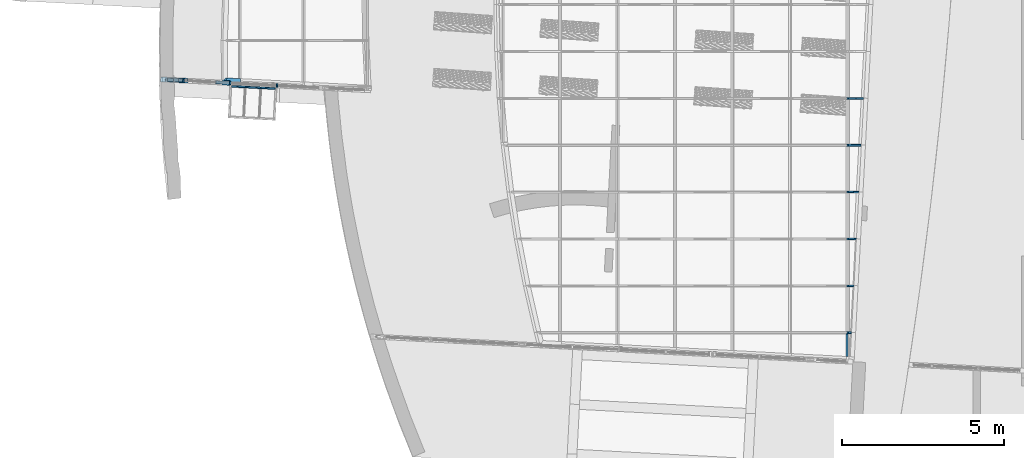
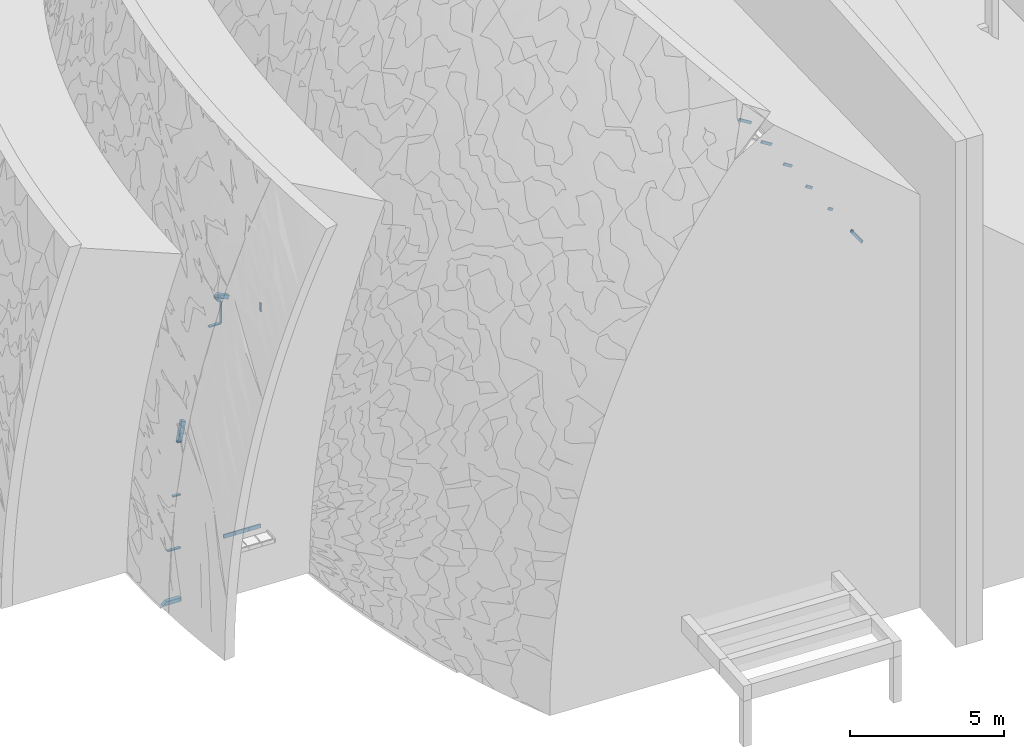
# One storey, part 25 of 82: 21 members, 3 elements without a shape of their own.
"""IFC2X3 building model written with IfcOpenShell, lengths in millimetres."""

from ifc_helpers import new_model, entity, si_unit, converted_unit, derived_unit, direction, frame, frame_2d, origin, origin_2d_with_axis, place, context, subcontext, project, spatial, polyline, rectangle, extrude, clip, halfspace, bounded_halfspace, source, transform, mapped, material, type_object, type_shapes, element, aggregate, save


model = new_model("IFC2X3")

# Units and contexts
model_context = context("Model", 3, precision=0.01, world=origin(), true_north=direction((6.12303176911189e-17, 1.0)))
body_context = subcontext(model_context, "Body", "Model", "MODEL_VIEW")
ifc_project = project(units=[si_unit("LENGTHUNIT", "METRE", prefix="MILLI"), si_unit("AREAUNIT", "SQUARE_METRE"), si_unit("VOLUMEUNIT", "CUBIC_METRE"), converted_unit("PLANEANGLEUNIT", "DEGREE", entity("IfcRatioMeasure", 0.0174532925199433), si_unit("PLANEANGLEUNIT", "RADIAN"), dimensions=[0, 0, 0, 0, 0, 0, 0]), si_unit("MASSUNIT", "GRAM", prefix="KILO"), derived_unit("MASSDENSITYUNIT", [(si_unit("MASSUNIT", "GRAM", prefix="KILO"), 1), (si_unit("LENGTHUNIT", "METRE"), -3)]), si_unit("TIMEUNIT", "SECOND"), si_unit("FREQUENCYUNIT", "HERTZ"), si_unit("THERMODYNAMICTEMPERATUREUNIT", "DEGREE_CELSIUS"), derived_unit("THERMALTRANSMITTANCEUNIT", [(si_unit("MASSUNIT", "GRAM", prefix="KILO"), 1), (si_unit("THERMODYNAMICTEMPERATUREUNIT", "KELVIN"), -1), (si_unit("TIMEUNIT", "SECOND"), -3)]), derived_unit("VOLUMETRICFLOWRATEUNIT", [(si_unit("LENGTHUNIT", "METRE"), 3), (si_unit("TIMEUNIT", "SECOND"), -1)]), si_unit("ELECTRICCURRENTUNIT", "AMPERE"), si_unit("ELECTRICVOLTAGEUNIT", "VOLT"), si_unit("POWERUNIT", "WATT"), si_unit("FORCEUNIT", "NEWTON", prefix="KILO"), si_unit("ILLUMINANCEUNIT", "LUX"), si_unit("LUMINOUSFLUXUNIT", "LUMEN"), si_unit("LUMINOUSINTENSITYUNIT", "CANDELA"), derived_unit("USERDEFINED", [(si_unit("MASSUNIT", "GRAM", prefix="KILO"), -1), (si_unit("LENGTHUNIT", "METRE"), -2), (si_unit("TIMEUNIT", "SECOND"), 3), (si_unit("LUMINOUSFLUXUNIT", "LUMEN"), 1)]), derived_unit("LINEARVELOCITYUNIT", [(si_unit("LENGTHUNIT", "METRE"), 1), (si_unit("TIMEUNIT", "SECOND"), -1)]), si_unit("PRESSUREUNIT", "PASCAL"), derived_unit("USERDEFINED", [(si_unit("LENGTHUNIT", "METRE"), -2), (si_unit("MASSUNIT", "GRAM", prefix="KILO"), 1), (si_unit("TIMEUNIT", "SECOND"), -2)])], contexts=[model_context])

# Site, building, storey
site_placement = place(None, origin())
site = spatial("IfcSite", under=ifc_project, at=site_placement, Name="表面", CompositionType="ELEMENT")
building_placement = place(site_placement, origin())
building = spatial("IfcBuilding", under=site, at=building_placement, CompositionType="ELEMENT")
storey_placement = place(building_placement, origin())
storey = spatial("IfcBuildingStorey", under=building, at=storey_placement, Name="1F", CompositionType="ELEMENT", Elevation=0.0)

# Curtain wall, members
curtain_wall_type_1 = type_object("IfcCurtainWallType", Name="幕墙系统:1450 x 2100mm", PredefinedType="NOTDEFINED")
curtain_wall_1_placement = place(storey_placement, origin())
curtain_wall_1 = element("IfcCurtainWall", 1, at=curtain_wall_1_placement, inside=storey, type_object=curtain_wall_type_1, Name="幕墙系统:1450 x 2100mm", ObjectType="幕墙系统:1450 x 2100mm")
ifc_material_1 = material(Name="金属 - 铝")
member_type_1 = type_object("IfcMemberType", Name="50 x 100mm", PredefinedType="MEMBER")
shared_shape_1 = source(origin(), body_context, "Body", "Clipping", [
    clip(clip(extrude(rectangle(XDim=100.0, YDim=50.0, at=origin_2d_with_axis()), frame((0.0, 0.0, -716.269883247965), z_axis=(0.0, 0.0, 1.0), x_axis=(0.0, -1.0, 0.0)), (0.0, 0.0, 1.0), 716.269883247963), bounded_halfspace(frame((-6.66007304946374, 75.0, -715.454777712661), z_axis=(0.0444004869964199, 0.0, -0.999013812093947), x_axis=(-0.999013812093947, 0.0, -0.0444004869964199)), False, frame((0.0, 0.0, -716.269883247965), z_axis=(0.0, 0.0, 1.0), x_axis=(0.0, -1.0, 0.0)), polyline([(50.0, -6.66007304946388), (50.0, -25.0), (-50.0, -25.0), (-50.0, -6.6600730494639), (50.0, -6.66007304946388)]))), bounded_halfspace(frame((2093.33992695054, 75.0, -622.121711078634), z_axis=(0.0444004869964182, 0.0, -0.999013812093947), x_axis=(-0.999013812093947, 0.0, -0.0444004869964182)), False, frame((0.0, 0.0, -716.269883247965), z_axis=(0.0, 0.0, 1.0), x_axis=(0.0, -1.0, 0.0)), polyline([(-50.0, 25.0), (50.0, 25.0), (50.0, -6.6600730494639), (-50.0, -6.66007304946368), (-50.0, 25.0)]))),
])
type_shapes(member_type_1, [shared_shape_1])
placement_1 = place(building_placement, frame((0.0, 0.0, 9000.0)))
member_1_placement = place(placement_1, frame((-19919.0996129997, -27913.9031535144, 3143.03179701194), z_axis=(0.0, 1.0, 0.0), x_axis=(-0.848048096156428, 0.0, 0.529919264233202)))
member_1 = element("IfcMember", 2, at=member_1_placement, type_object=member_type_1, material=ifc_material_1, Name="矩形竖梃:50 x 100mm", ObjectType="50 x 100mm", context=body_context, shape_type="MappedRepresentation", body=[
    mapped(shared_shape_1, transform((0.0, 0.0, 0.0), scale=1.0)),
])
member_type_2 = type_object("IfcMemberType", Name="50 x 100mm", PredefinedType="MEMBER")
shared_shape_2 = source(origin(), body_context, "Body", "Clipping", [
    clip(clip(extrude(rectangle(XDim=100.0, YDim=50.0, at=origin_2d_with_axis()), frame((0.0, 0.0, -541.711453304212), z_axis=(0.0, 0.0, 1.0), x_axis=(0.0, -1.0, 0.0)), (0.0, 0.0, 1.0), 541.711453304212), bounded_halfspace(frame((-9.25206819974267, 75.0, -540.738260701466), z_axis=(0.0616804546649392, 0.0, -0.998095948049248), x_axis=(-0.998095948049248, 0.0, -0.0616804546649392)), False, frame((0.0, 0.0, -541.711453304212), z_axis=(0.0, 0.0, 1.0), x_axis=(0.0, -1.0, 0.0)), polyline([(50.0, -9.25206819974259), (50.0, -25.0), (-50.0, -25.0), (-50.0, -9.25206819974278), (50.0, -9.25206819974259)]))), bounded_halfspace(frame((1440.74793180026, 75.0, -451.130984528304), z_axis=(0.0616804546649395, 0.0, -0.998095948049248), x_axis=(-0.998095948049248, 0.0, -0.0616804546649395)), False, frame((0.0, 0.0, -541.711453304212), z_axis=(0.0, 0.0, 1.0), x_axis=(0.0, -1.0, 0.0)), polyline([(-50.0, 25.0), (50.0, 25.0), (50.0, -9.25206819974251), (-50.0, -9.25206819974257), (-50.0, 25.0)]))),
])
type_shapes(member_type_2, [shared_shape_2])
member_2_placement = place(placement_1, frame((-19919.0996129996, -20638.9031535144, 3143.03179701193), z_axis=(-0.848048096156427, 0.0, 0.529919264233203), x_axis=(0.0, -1.0, 0.0)))
member_2 = element("IfcMember", 3, at=member_2_placement, type_object=member_type_2, material=ifc_material_1, Name="矩形竖梃:50 x 100mm", ObjectType="50 x 100mm", context=body_context, shape_type="MappedRepresentation", body=[
    mapped(shared_shape_2, transform((0.0, 0.0, 0.0), scale=1.0)),
])
member_type_3 = type_object("IfcMemberType", Name="50 x 100mm", PredefinedType="MEMBER")
shared_shape_3 = source(origin(), body_context, "Body", "Clipping", [
    clip(clip(extrude(rectangle(XDim=100.0, YDim=50.0, at=origin_2d_with_axis()), frame((0.0, 0.0, -452.104177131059), z_axis=(0.0, 0.0, 1.0), x_axis=(0.0, -1.0, 0.0)), (0.0, 0.0, 1.0), 452.104177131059), bounded_halfspace(frame((-9.25206819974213, 75.0, -451.130984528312), z_axis=(0.0616804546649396, 0.0, -0.998095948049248), x_axis=(-0.998095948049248, 0.0, -0.0616804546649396)), False, frame((0.0, 0.0, -452.104177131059), z_axis=(0.0, 0.0, 1.0), x_axis=(0.0, -1.0, 0.0)), polyline([(50.0, -9.25206819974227), (50.0, -25.0), (-50.0, -25.0), (-50.0, -9.25206819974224), (50.0, -9.25206819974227)]))), bounded_halfspace(frame((1440.74793180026, 75.0, -361.523708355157), z_axis=(0.0616804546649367, 0.0, -0.998095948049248), x_axis=(-0.998095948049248, 0.0, -0.0616804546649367)), False, frame((0.0, 0.0, -452.104177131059), z_axis=(0.0, 0.0, 1.0), x_axis=(0.0, -1.0, 0.0)), polyline([(-50.0, 25.0), (50.0, 25.0), (50.0, -9.25206819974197), (-50.0, -9.25206819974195), (-50.0, 25.0)]))),
])
type_shapes(member_type_3, [shared_shape_3])
member_3_placement = place(placement_1, frame((-19919.0996129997, -22088.9031535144, 3143.03179701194), z_axis=(-0.848048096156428, 0.0, 0.529919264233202), x_axis=(0.0, -1.0, 0.0)))
member_3 = element("IfcMember", 4, at=member_3_placement, type_object=member_type_3, material=ifc_material_1, Name="矩形竖梃:50 x 100mm", ObjectType="50 x 100mm", context=body_context, shape_type="MappedRepresentation", body=[
    mapped(shared_shape_3, transform((0.0, 0.0, 0.0), scale=1.0)),
])
member_type_4 = type_object("IfcMemberType", Name="50 x 100mm", PredefinedType="MEMBER")
shared_shape_4 = source(origin(), body_context, "Body", "Clipping", [
    clip(clip(extrude(rectangle(XDim=100.0, YDim=50.0, at=frame_2d((-2.48689957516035e-14, 0.0), x_axis=(1.0, 0.0))), frame((0.0, 0.0, -362.496900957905), z_axis=(0.0, 0.0, 1.0), x_axis=(0.0, -1.0, 0.0)), (0.0, 0.0, 1.0), 362.496900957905), bounded_halfspace(frame((-9.25206819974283, 75.0, -361.523708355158), z_axis=(0.0616804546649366, 0.0, -0.998095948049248), x_axis=(-0.998095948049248, 0.0, -0.0616804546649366)), False, frame((0.0, 0.0, -362.496900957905), z_axis=(0.0, 0.0, 1.0), x_axis=(0.0, -1.0, 0.0)), polyline([(50.0, -9.25206819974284), (50.0, -25.0), (-50.0, -25.0), (-50.0, -9.25206819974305), (50.0, -9.25206819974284)]))), bounded_halfspace(frame((1440.74793180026, 75.0, -271.916432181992), z_axis=(0.0616804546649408, 0.0, -0.998095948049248), x_axis=(-0.998095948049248, 0.0, -0.0616804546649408)), False, frame((0.0, 0.0, -362.496900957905), z_axis=(0.0, 0.0, 1.0), x_axis=(0.0, -1.0, 0.0)), polyline([(-50.0, 25.0), (50.0, 25.0), (50.0, -9.25206819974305), (-50.0, -9.25206819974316), (-50.0, 25.0)]))),
])
type_shapes(member_type_4, [shared_shape_4])
member_4_placement = place(placement_1, frame((-19919.0996129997, -23538.9031535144, 3143.03179701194), z_axis=(-0.848048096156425, 0.0, 0.529919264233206), x_axis=(0.0, -1.0, 0.0)))
member_4 = element("IfcMember", 5, at=member_4_placement, type_object=member_type_4, material=ifc_material_1, Name="矩形竖梃:50 x 100mm", ObjectType="50 x 100mm", context=body_context, shape_type="MappedRepresentation", body=[
    mapped(shared_shape_4, transform((0.0, 0.0, 0.0), scale=1.0)),
])
member_type_5 = type_object("IfcMemberType", Name="50 x 100mm", PredefinedType="MEMBER")
shared_shape_5 = source(origin(), body_context, "Body", "Clipping", [
    clip(clip(extrude(rectangle(XDim=100.0, YDim=50.0, at=frame_2d((-2.48689957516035e-14, 0.0), x_axis=(1.0, 0.0))), frame((0.0, 0.0, -272.889624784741), z_axis=(0.0, 0.0, 1.0), x_axis=(0.0, -1.0, 0.0)), (0.0, 0.0, 1.0), 272.889624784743), bounded_halfspace(frame((-9.25206819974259, 75.0, -271.916432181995), z_axis=(0.0616804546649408, 0.0, -0.998095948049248), x_axis=(-0.998095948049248, 0.0, -0.0616804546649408)), False, frame((0.0, 0.0, -272.889624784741), z_axis=(0.0, 0.0, 1.0), x_axis=(0.0, -1.0, 0.0)), polyline([(50.0, -9.25206819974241), (50.0, -25.0), (-50.0, -25.0), (-50.0, -9.25206819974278), (50.0, -9.25206819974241)]))), bounded_halfspace(frame((1440.74793180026, 75.0, -182.309156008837), z_axis=(0.0616804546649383, 0.0, -0.998095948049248), x_axis=(-0.998095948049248, 0.0, -0.0616804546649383)), False, frame((0.0, 0.0, -272.889624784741), z_axis=(0.0, 0.0, 1.0), x_axis=(0.0, -1.0, 0.0)), polyline([(-50.0, 25.0), (50.0, 25.0), (50.0, -9.25206819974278), (-50.0, -9.25206819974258), (-50.0, 25.0)]))),
])
type_shapes(member_type_5, [shared_shape_5])
member_5_placement = place(placement_1, frame((-19919.0996129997, -24988.9031535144, 3143.03179701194), z_axis=(-0.848048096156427, 0.0, 0.529919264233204), x_axis=(0.0, -1.0, 0.0)))
member_5 = element("IfcMember", 6, at=member_5_placement, type_object=member_type_5, material=ifc_material_1, Name="矩形竖梃:50 x 100mm", ObjectType="50 x 100mm", context=body_context, shape_type="MappedRepresentation", body=[
    mapped(shared_shape_5, transform((0.0, 0.0, 0.0), scale=1.0)),
])
member_type_6 = type_object("IfcMemberType", Name="50 x 100mm", PredefinedType="MEMBER")
shared_shape_6 = source(origin(), body_context, "Body", "Clipping", [
    clip(clip(extrude(rectangle(XDim=100.0, YDim=50.0, at=frame_2d((-1.4210854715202e-14, 0.0), x_axis=(1.0, 0.0))), frame((0.0, 0.0, -183.282348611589), z_axis=(0.0, 0.0, 1.0), x_axis=(0.0, -1.0, 0.0)), (0.0, 0.0, 1.0), 183.282348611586), bounded_halfspace(frame((-9.25206819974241, 75.0, -182.309156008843), z_axis=(0.0616804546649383, 0.0, -0.998095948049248), x_axis=(-0.998095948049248, 0.0, -0.0616804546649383)), False, frame((0.0, 0.0, -183.282348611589), z_axis=(0.0, 0.0, 1.0), x_axis=(0.0, -1.0, 0.0)), polyline([(50.0, -9.25206819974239), (50.0, -25.0), (-50.0, -25.0), (-50.0, -9.25206819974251), (50.0, -9.25206819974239)]))), bounded_halfspace(frame((1440.74793180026, 75.0, -92.7018798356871), z_axis=(0.0616804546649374, 0.0, -0.998095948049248), x_axis=(-0.998095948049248, 0.0, -0.0616804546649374)), False, frame((0.0, 0.0, -183.282348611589), z_axis=(0.0, 0.0, 1.0), x_axis=(0.0, -1.0, 0.0)), polyline([(-50.0, 25.0), (50.0, 25.0), (50.0, -9.25206819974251), (-50.0, -9.25206819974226), (-50.0, 25.0)]))),
])
type_shapes(member_type_6, [shared_shape_6])
member_6_placement = place(placement_1, frame((-19919.0996129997, -26438.9031535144, 3143.03179701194), z_axis=(-0.848048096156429, 0.0, 0.5299192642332), x_axis=(0.0, -1.0, 0.0)))
member_6 = element("IfcMember", 7, at=member_6_placement, type_object=member_type_6, material=ifc_material_1, Name="矩形竖梃:50 x 100mm", ObjectType="50 x 100mm", context=body_context, shape_type="MappedRepresentation", body=[
    mapped(shared_shape_6, transform((0.0, 0.0, 0.0), scale=1.0)),
])
member_type_7 = type_object("IfcMemberType", Name="50 x 100mm", PredefinedType="MEMBER")
shared_shape_7 = source(origin(), body_context, "Body", "Clipping", [
    clip(clip(extrude(rectangle(XDim=100.0, YDim=50.0, at=origin_2d_with_axis()), frame((0.0, 0.0, -93.675072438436), z_axis=(0.0, 0.0, 1.0), x_axis=(0.0, -1.0, 0.0)), (0.0, 0.0, 1.0), 93.675072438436), bounded_halfspace(frame((-9.25206819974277, 75.0, -92.7018798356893), z_axis=(0.0616804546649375, 0.0, -0.998095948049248), x_axis=(-0.998095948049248, 0.0, -0.0616804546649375)), False, frame((0.0, 0.0, -93.675072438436), z_axis=(0.0, 0.0, 1.0), x_axis=(0.0, -1.0, 0.0)), polyline([(50.0, -9.2520681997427), (50.0, -25.0), (-50.0, -25.0), (-50.0, -9.25206819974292), (50.0, -9.2520681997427)]))), bounded_halfspace(frame((889.360699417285, 75.0, -37.1692988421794), z_axis=(0.0616804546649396, 0.0, -0.998095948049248), x_axis=(-0.998095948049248, 0.0, -0.0616804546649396)), False, frame((0.0, 0.0, -93.675072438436), z_axis=(0.0, 0.0, 1.0), x_axis=(0.0, -1.0, 0.0)), polyline([(-50.0, 25.0), (50.0, 25.0), (50.0, -9.25206819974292), (-50.0, -9.25206819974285), (-50.0, 25.0)]))),
])
type_shapes(member_type_7, [shared_shape_7])
member_7_placement = place(placement_1, frame((-19919.0996129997, -27888.9031535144, 3143.03179701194), z_axis=(-0.848048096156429, 0.0, 0.5299192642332), x_axis=(0.0, -1.0, 0.0)))
member_7 = element("IfcMember", 8, at=member_7_placement, type_object=member_type_7, material=ifc_material_1, Name="矩形竖梃:50 x 100mm", ObjectType="50 x 100mm", context=body_context, shape_type="MappedRepresentation", body=[
    mapped(shared_shape_7, transform((0.0, 0.0, 0.0), scale=1.0)),
])
aggregate(curtain_wall_1, [member_1, member_2, member_3, member_4, member_5, member_6, member_7])

curtain_wall_2_placement = place(storey_placement, origin())
curtain_wall_2 = element("IfcCurtainWall", 9, at=curtain_wall_2_placement, inside=storey, type_object=curtain_wall_type_1, Name="幕墙系统:1450 x 2100mm", ObjectType="幕墙系统:1450 x 2100mm")
ifc_material_2 = material(Name="木质 - 木材")
member_type_8 = type_object("IfcMemberType", Name="200 x 150mm", PredefinedType="MEMBER")
shared_shape_8 = source(origin(), body_context, "Body", "Clipping", [
    clip(extrude(rectangle(XDim=150.0, YDim=150.0, at=origin_2d_with_axis()), frame((-75.0, 0.0, -576.864720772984), z_axis=(0.0, 0.0, 1.0), x_axis=(0.0, -1.0, 0.0)), (0.0, 0.0, 1.0), 576.864720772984), halfspace(frame((0.0, -304.8, 0.0), z_axis=(-0.68809333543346, 0.0, 0.725622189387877), x_axis=(-0.725622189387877, 0.0, -0.68809333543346)), False)),
])
type_shapes(member_type_8, [shared_shape_8])
member_8_placement = place(placement_1, frame((-39271.3992940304, -20150.997444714, 2613.88867092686), z_axis=(-0.938555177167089, 0.0491875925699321, 0.34160614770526), x_axis=(-0.0462212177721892, -0.998789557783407, 0.0168231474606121)))
member_8 = element("IfcMember", 10, at=member_8_placement, type_object=member_type_8, material=ifc_material_2, Name="矩形竖梃:200 x 150mm", ObjectType="200 x 150mm", context=body_context, shape_type="MappedRepresentation", body=[
    mapped(shared_shape_8, transform((0.0, 0.0, 0.0), scale=1.0)),
])
member_type_9 = type_object("IfcMemberType", Name="200 x 150mm", PredefinedType="MEMBER")
shared_shape_9 = source(origin(), body_context, "Body", "Clipping", [
    clip(extrude(rectangle(XDim=150.0, YDim=150.0, at=origin_2d_with_axis()), frame((-75.0, 0.0, -675.135525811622), z_axis=(0.0, 0.0, 1.0), x_axis=(0.0, -1.0, 0.0)), (0.0, 0.0, 1.0), 675.135525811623), halfspace(frame((0.0, -304.8, 0.0), z_axis=(-0.717248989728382, 0.0, 0.696816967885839), x_axis=(-0.696816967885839, 0.0, -0.717248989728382)), False)),
])
type_shapes(member_type_9, [shared_shape_9])
member_9_placement = place(storey_placement, frame((-41173.6528149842, -20051.3045620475, 0.0), z_axis=(-0.998629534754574, 0.0523359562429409, 0.0), x_axis=(0.0, 0.0, -1.0)))
member_9 = element("IfcMember", 11, at=member_9_placement, type_object=member_type_9, material=ifc_material_2, Name="矩形竖梃:200 x 150mm", ObjectType="200 x 150mm", context=body_context, shape_type="MappedRepresentation", body=[
    mapped(shared_shape_9, transform((0.0, 0.0, 0.0), scale=1.0)),
])
member_type_10 = type_object("IfcMemberType", Name="200 x 150mm", PredefinedType="MEMBER")
shared_shape_10 = source(origin(), body_context, "Body", "Clipping", [
    clip(extrude(rectangle(XDim=150.0, YDim=150.0, at=frame_2d((2.1316282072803e-14, -2.1316282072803e-14), x_axis=(1.0, 0.0))), frame((-75.0, 0.0, -260.970611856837), z_axis=(0.0, 0.0, 1.0), x_axis=(0.0, -1.0, 0.0)), (0.0, 0.0, 1.0), 260.970611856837), halfspace(frame((0.0, -304.800000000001, -260.97061185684), z_axis=(-0.720957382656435, 0.0, -0.692979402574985), x_axis=(-0.692979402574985, 0.0, 0.720957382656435)), False)),
])
type_shapes(member_type_10, [shared_shape_10])
member_10_placement = place(placement_1, frame((-39026.4639751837, -20163.8339608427, 2524.73950554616), z_axis=(0.938555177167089, -0.0491875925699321, -0.341606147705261), x_axis=(0.341137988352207, -0.0178782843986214, 0.939843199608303)))
member_10 = element("IfcMember", 12, at=member_10_placement, type_object=member_type_10, material=ifc_material_2, Name="矩形竖梃:200 x 150mm", ObjectType="200 x 150mm", context=body_context, shape_type="MappedRepresentation", body=[
    mapped(shared_shape_10, transform((0.0, 0.0, 0.0), scale=1.0)),
])
member_type_11 = type_object("IfcMemberType", Name="200 x 150mm", PredefinedType="MEMBER")
shared_shape_11 = source(origin(), body_context, "Body", "Clipping", [
    clip(clip(extrude(rectangle(XDim=150.0, YDim=150.0, at=origin_2d_with_axis()), frame((-75.0, 0.0, -814.638095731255), z_axis=(0.0, 0.0, 1.0), x_axis=(0.0, -1.0, 0.0)), (0.0, 0.0, 1.0), 814.638095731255), halfspace(frame((0.0, -304.800000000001, -814.638095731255), z_axis=(-0.0201955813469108, 0.0, -0.999796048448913), x_axis=(-0.999796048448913, 0.0, 0.0201955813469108)), False)), halfspace(frame((0.0, -304.800000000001, 0.0), z_axis=(-0.014746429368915, 0.0, 0.999891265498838), x_axis=(-0.999891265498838, 0.0, -0.014746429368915)), False)),
])
type_shapes(member_type_11, [shared_shape_11])
placement_2 = place(building_placement, frame((0.0, 0.0, 6000.0)))
member_11_placement = place(placement_2, frame((-40474.4768005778, -20087.9468242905, 1100.68281178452), z_axis=(0.184051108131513, -0.00964570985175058, 0.982869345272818), x_axis=(-0.981522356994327, 0.0514394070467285, 0.18430368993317)))
member_11 = element("IfcMember", 13, at=member_11_placement, type_object=member_type_11, material=ifc_material_2, Name="矩形竖梃:200 x 150mm", ObjectType="200 x 150mm", context=body_context, shape_type="MappedRepresentation", body=[
    mapped(shared_shape_11, transform((0.0, 0.0, 0.0), scale=1.0)),
])
member_type_12 = type_object("IfcMemberType", Name="50 x 100mm", PredefinedType="MEMBER")
shared_shape_12 = source(origin(), body_context, "Body", "Clipping", [
    clip(clip(extrude(rectangle(XDim=100.0, YDim=50.0, at=origin_2d_with_axis()), frame((0.0, 0.0, -465.096471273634), z_axis=(0.0, 0.0, 1.0), x_axis=(0.0, -1.0, 0.0)), (0.0, 0.0, 1.0), 465.096471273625), bounded_halfspace(frame((-8.67494838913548, 75.0, -464.624607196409), z_axis=(0.0288922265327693, 0.0, -0.999582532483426), x_axis=(-0.999582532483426, 0.0, -0.0288922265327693)), False, frame((0.0, 0.0, -465.096471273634), z_axis=(0.0, 0.0, 1.0), x_axis=(0.0, -1.0, 0.0)), polyline([(50.0, -8.67494838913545), (50.0, -25.0), (-50.0, -25.0), (-50.0, -8.67494838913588), (50.0, -8.67494838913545)]))), bounded_halfspace(frame((2086.99846887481, 75.0, -282.291973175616), z_axis=(0.0866768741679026, 0.0, -0.99623647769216), x_axis=(-0.99623647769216, 0.0, -0.0866768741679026)), False, frame((0.0, 0.0, -465.096471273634), z_axis=(0.0, 0.0, 1.0), x_axis=(0.0, -1.0, 0.0)), polyline([(-50.0, 25.0), (50.0, 25.0), (50.0, -8.67494838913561), (-50.0, -8.67494838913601), (-50.0, 25.0)]))),
])
type_shapes(member_type_12, [shared_shape_12])
member_12_placement = place(storey_placement, frame((-40499.4425389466, -20086.6384253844, 2100.0), z_axis=(0.998629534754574, -0.0523359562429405, 0.0), x_axis=(0.0, 0.0, 1.0)))
member_12 = element("IfcMember", 14, at=member_12_placement, type_object=member_type_12, material=ifc_material_1, Name="矩形竖梃:50 x 100mm", ObjectType="50 x 100mm", context=body_context, shape_type="MappedRepresentation", body=[
    mapped(shared_shape_12, transform((0.0, 0.0, 0.0), scale=1.0)),
])
member_type_13 = type_object("IfcMemberType", Name="50 x 100mm", PredefinedType="MEMBER")
shared_shape_13 = source(origin(), body_context, "Body", "Clipping", [
    clip(clip(extrude(rectangle(XDim=100.0, YDim=50.0, at=origin_2d_with_axis()), frame((0.0, 0.0, -283.335891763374), z_axis=(0.0, 0.0, 1.0), x_axis=(0.0, -1.0, 0.0)), (0.0, 0.0, 1.0), 283.335891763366), bounded_halfspace(frame((-17.3501112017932, 75.0, -282.670318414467), z_axis=(0.0866768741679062, 0.0, -0.99623647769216), x_axis=(-0.99623647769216, 0.0, -0.0866768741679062)), False, frame((0.0, 0.0, -283.335891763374), z_axis=(0.0, 0.0, 1.0), x_axis=(0.0, -1.0, 0.0)), polyline([(50.0, -17.3501112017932), (50.0, -25.0), (-50.0, -25.0), (-50.0, -17.350111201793), (50.0, -17.3501112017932)]))), bounded_halfspace(frame((2078.33066846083, 75.0, 23.2857407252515), z_axis=(0.14446221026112, 0.0, -0.989510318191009), x_axis=(-0.989510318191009, 0.0, -0.14446221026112)), False, frame((0.0, 0.0, -283.335891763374), z_axis=(0.0, 0.0, 1.0), x_axis=(0.0, -1.0, 0.0)), polyline([(-50.0, 25.0), (50.0, 25.0), (50.0, -17.3501112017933), (-50.0, -17.3501112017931), (-50.0, 25.0)]))),
])
type_shapes(member_type_13, [shared_shape_13])
placement_3 = place(building_placement, frame((0.0, 0.0, 3000.0)))
member_13_placement = place(placement_3, frame((-40499.4425389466, -20086.6384253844, 1200.0), z_axis=(0.998629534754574, -0.0523359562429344, 0.0), x_axis=(0.0, 0.0, 1.0)))
member_13 = element("IfcMember", 15, at=member_13_placement, type_object=member_type_13, material=ifc_material_1, Name="矩形竖梃:50 x 100mm", ObjectType="50 x 100mm", context=body_context, shape_type="MappedRepresentation", body=[
    mapped(shared_shape_13, transform((0.0, 0.0, 0.0), scale=1.0)),
])
member_type_14 = type_object("IfcMemberType", Name="50 x 100mm", PredefinedType="MEMBER")
shared_shape_14 = source(origin(), body_context, "Body", "SweptSolid", [
    extrude(rectangle(XDim=100.0, YDim=50.0, at=origin_2d_with_axis()), frame((0.0, 0.0, -125.140807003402), z_axis=(0.0, 0.0, 1.0), x_axis=(0.0, -1.0, 0.0)), (0.0, 0.0, 1.0), 125.140807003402),
])
type_shapes(member_type_14, [shared_shape_14])
member_14_placement = place(placement_2, frame((-40499.4425389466, -20086.6384253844, 300.0), z_axis=(0.998629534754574, -0.0523359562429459, 0.0), x_axis=(0.0, 0.0, 1.0)))
member_14 = element("IfcMember", 16, at=member_14_placement, type_object=member_type_14, material=ifc_material_1, Name="矩形竖梃:50 x 100mm", ObjectType="50 x 100mm", context=body_context, shape_type="MappedRepresentation", body=[
    mapped(shared_shape_14, transform((0.0, 0.0, 0.0), scale=1.0)),
])
member_type_15 = type_object("IfcMemberType", Name="50 x 100mm", PredefinedType="MEMBER")
shared_shape_15 = source(origin(), body_context, "Body", "Clipping", [
    clip(extrude(rectangle(XDim=100.0, YDim=50.0, at=origin_2d_with_axis()), frame((0.0, 0.0, -426.443339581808), z_axis=(0.0, 0.0, 1.0), x_axis=(0.0, -1.0, 0.0)), (0.0, 0.0, 1.0), 426.443339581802), halfspace(frame((1068.26476048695, 75.0, -77.3782821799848), z_axis=(0.304159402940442, 0.0, -0.952621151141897), x_axis=(-0.952621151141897, 0.0, -0.304159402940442)), False)),
])
type_shapes(member_type_15, [shared_shape_15])
member_15_placement = place(placement_1, frame((-39051.4297135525, -20162.5255619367, 1500.0), z_axis=(0.998629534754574, -0.0523359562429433, 0.0), x_axis=(0.0, 0.0, 1.0)))
member_15 = element("IfcMember", 17, at=member_15_placement, type_object=member_type_15, material=ifc_material_1, Name="矩形竖梃:50 x 100mm", ObjectType="50 x 100mm", context=body_context, shape_type="MappedRepresentation", body=[
    mapped(shared_shape_15, transform((0.0, 0.0, 0.0), scale=1.0)),
])
member_type_16 = type_object("IfcMemberType", Name="50 x 100mm", PredefinedType="MEMBER")
shared_shape_16 = source(origin(), body_context, "Body", "Clipping", [
    clip(extrude(rectangle(XDim=100.0, YDim=50.0, at=origin_2d_with_axis()), frame((0.0, 0.0, -497.705938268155), z_axis=(0.0, 0.0, 1.0), x_axis=(0.0, -1.0, 0.0)), (0.0, 0.0, 1.0), 347.191632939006), halfspace(frame((-1318.07149984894, 75.0, -638.6824182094), z_axis=(-0.34160614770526, 0.0, 0.939843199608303), x_axis=(0.939843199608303, 0.0, 0.34160614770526)), False)),
])
type_shapes(member_type_16, [shared_shape_16])
member_16_placement = place(placement_1, frame((-37578.4511497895, -20239.721097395, 1997.705938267), z_axis=(0.0, 0.0, 1.0), x_axis=(-0.998629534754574, 0.0523359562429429, 0.0)))
member_16 = element("IfcMember", 18, at=member_16_placement, type_object=member_type_16, material=ifc_material_1, Name="矩形竖梃:50 x 100mm", ObjectType="50 x 100mm", context=body_context, shape_type="MappedRepresentation", body=[
    mapped(shared_shape_16, transform((0.0, 0.0, 0.0), scale=1.0)),
])
member_type_17 = type_object("IfcMemberType", Name="50 x 100mm", PredefinedType="MEMBER")
shared_shape_17 = source(origin(), body_context, "Body", "Clipping", [
    clip(extrude(rectangle(XDim=100.0, YDim=50.0, at=origin_2d_with_axis()), frame((0.0, 0.0, -1024.73950554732), z_axis=(0.0, 0.0, 1.0), x_axis=(0.0, -1.0, 0.0)), (0.0, 0.0, 1.0), 874.225200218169), halfspace(frame((-1398.75907784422, 75.0, -668.010047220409), z_axis=(-0.341606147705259, 0.0, 0.939843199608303), x_axis=(0.939843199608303, 0.0, 0.341606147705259)), False)),
])
type_shapes(member_type_17, [shared_shape_17])
member_17_placement = place(placement_1, frame((-39026.4639751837, -20163.8339608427, 2524.73950554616), z_axis=(0.0, 0.0, 1.0), x_axis=(-0.998629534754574, 0.0523359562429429, 0.0)))
member_17 = element("IfcMember", 19, at=member_17_placement, type_object=member_type_17, material=ifc_material_1, Name="矩形竖梃:50 x 100mm", ObjectType="50 x 100mm", context=body_context, shape_type="MappedRepresentation", body=[
    mapped(shared_shape_17, transform((0.0, 0.0, 0.0), scale=1.0)),
])
member_type_18 = type_object("IfcMemberType", Name="50 x 100mm", PredefinedType="MEMBER")
shared_shape_18 = source(origin(), body_context, "Body", "SweptSolid", [
    extrude(rectangle(XDim=100.0, YDim=50.0, at=origin_2d_with_axis()), frame((0.0, 0.0, -800.682811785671), z_axis=(0.0, 0.0, 1.0), x_axis=(0.0, -1.0, 0.0)), (0.0, 0.0, 1.0), 800.682811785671),
])
type_shapes(member_type_18, [shared_shape_18])
member_18_placement = place(placement_2, frame((-40474.4768005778, -20087.9468242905, 1100.68281178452), z_axis=(0.0, 0.0, 1.0), x_axis=(-0.998629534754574, 0.0523359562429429, 0.0)))
member_18 = element("IfcMember", 20, at=member_18_placement, type_object=member_type_18, material=ifc_material_1, Name="矩形竖梃:50 x 100mm", ObjectType="50 x 100mm", context=body_context, shape_type="MappedRepresentation", body=[
    mapped(shared_shape_18, transform((0.0, 0.0, 0.0), scale=1.0)),
])
aggregate(curtain_wall_2, [member_8, member_9, member_10, member_11, member_12, member_13, member_14, member_15, member_16, member_17, member_18])

# Roof, members
curtain_wall_type_2 = type_object("IfcCurtainWallType", Name="玻璃斜窗:玻璃斜窗 2", PredefinedType="NOTDEFINED")
roof_placement = place(storey_placement, origin())
roof = element("IfcRoof", 21, at=roof_placement, inside=storey, type_object=curtain_wall_type_2, Name="玻璃斜窗:玻璃斜窗 2", ObjectType="玻璃斜窗:玻璃斜窗 2", ShapeType="NOTDEFINED")
member_type_19 = type_object("IfcMemberType", Name="50 x 150mm", PredefinedType="MEMBER")
shared_shape_19 = source(origin(), body_context, "Body", "SweptSolid", [
    extrude(rectangle(XDim=150.0, YDim=50.0, at=origin_2d_with_axis()), frame((-25.0, 0.0, -430.0), z_axis=(0.0, 0.0, 1.0), x_axis=(0.0, -1.0, 0.0)), (0.0, 0.0, 1.0), 430.000000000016),
])
type_shapes(member_type_19, [shared_shape_19])
member_19_placement = place(storey_placement, frame((-38980.4576951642, -20241.3479737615, 2100.0), z_axis=(-0.998629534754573, 0.052335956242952, 0.0), x_axis=(0.052335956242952, 0.998629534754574, 0.0)))
member_19 = element("IfcMember", 22, at=member_19_placement, type_object=member_type_19, material=ifc_material_1, Name="矩形竖梃:50 x 150mm", ObjectType="50 x 150mm", context=body_context, shape_type="MappedRepresentation", body=[
    mapped(shared_shape_19, transform((0.0, 0.0, 0.0), scale=1.0)),
])
member_type_20 = type_object("IfcMemberType", Name="50 x 150mm", PredefinedType="MEMBER")
shared_shape_20 = source(origin(), body_context, "Body", "SweptSolid", [
    extrude(rectangle(XDim=150.0, YDim=50.0, at=origin_2d_with_axis()), frame((-25.0, 0.0, -480.0), z_axis=(0.0, 0.0, 1.0), x_axis=(0.0, -1.0, 0.0)), (0.0, 0.0, 1.0), 479.999999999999),
])
type_shapes(member_type_20, [shared_shape_20])
member_20_placement = place(storey_placement, frame((-38551.0469952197, -20263.852434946, 2100.0), z_axis=(-0.998629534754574, 0.0523359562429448, 0.0), x_axis=(0.0523359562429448, 0.998629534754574, 0.0)))
member_20 = element("IfcMember", 23, at=member_20_placement, type_object=member_type_20, material=ifc_material_1, Name="矩形竖梃:50 x 150mm", ObjectType="50 x 150mm", context=body_context, shape_type="MappedRepresentation", body=[
    mapped(shared_shape_20, transform((0.0, 0.0, 0.0), scale=1.0)),
])
member_type_21 = type_object("IfcMemberType", Name="50 x 150mm", PredefinedType="MEMBER")
shared_shape_21 = source(origin(), body_context, "Body", "SweptSolid", [
    extrude(rectangle(XDim=150.0, YDim=50.0, at=origin_2d_with_axis()), frame((-25.0, 0.0, -440.0), z_axis=(0.0, 0.0, 1.0), x_axis=(0.0, -1.0, 0.0)), (0.0, 0.0, 1.0), 439.999999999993),
])
type_shapes(member_type_21, [shared_shape_21])
member_21_placement = place(storey_placement, frame((-38071.7048185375, -20288.9736939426, 2100.0), z_axis=(-0.998629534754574, 0.0523359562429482, 0.0), x_axis=(0.0523359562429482, 0.998629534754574, 0.0)))
member_21 = element("IfcMember", 24, at=member_21_placement, type_object=member_type_21, material=ifc_material_1, Name="矩形竖梃:50 x 150mm", ObjectType="50 x 150mm", context=body_context, shape_type="MappedRepresentation", body=[
    mapped(shared_shape_21, transform((0.0, 0.0, 0.0), scale=1.0)),
])
aggregate(roof, [member_19, member_20, member_21])

save(model, "model.ifc")
